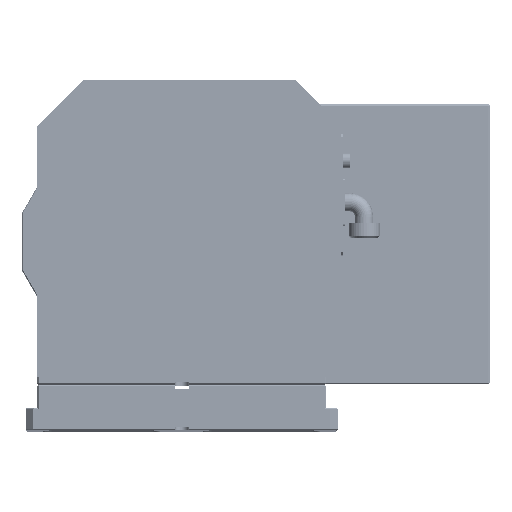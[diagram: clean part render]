
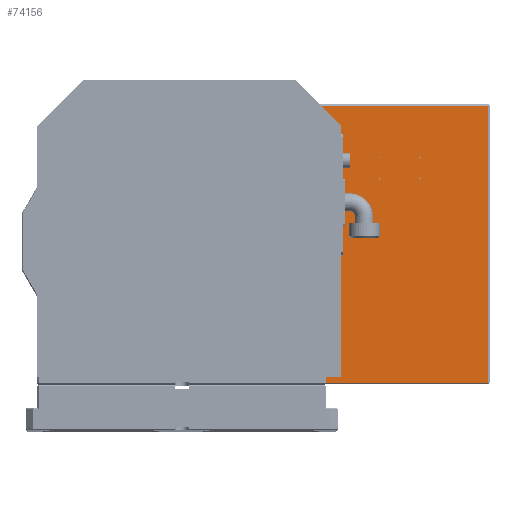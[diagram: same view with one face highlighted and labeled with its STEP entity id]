
A CAD part, top view. The second image highlights one B-rep face of the part: STEP entity #74156.
In plain terms, the highlighted planar face has unit normal (0, 0, 1).
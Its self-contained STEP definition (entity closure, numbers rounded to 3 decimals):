
#1407 = FACE_BOUND ( 'NONE', #3339, .T. ) ;
#2010 = CARTESIAN_POINT ( 'NONE',  ( 405.5, 185., 206. ) ) ;
#2607 = VERTEX_POINT ( 'NONE', #87970 ) ;
#2895 = CARTESIAN_POINT ( 'NONE',  ( 260.5, 87., 206. ) ) ;
#3152 = VERTEX_POINT ( 'NONE', #99328 ) ;
#3267 = VERTEX_POINT ( 'NONE', #33553 ) ;
#3339 = EDGE_LOOP ( 'NONE', ( #84388, #63645 ) ) ;
#4144 = DIRECTION ( 'NONE',  ( 0., 0., 1. ) ) ;
#5925 = EDGE_CURVE ( 'NONE', #110660, #3152, #30447, .T. ) ;
#6602 = VERTEX_POINT ( 'NONE', #64841 ) ;
#8073 = AXIS2_PLACEMENT_3D ( 'NONE', #11706, #98459, #106763 ) ;
#8758 = AXIS2_PLACEMENT_3D ( 'NONE', #2010, #79185, #12806 ) ;
#11665 = DIRECTION ( 'NONE',  ( 0., 0., 1. ) ) ;
#11706 = CARTESIAN_POINT ( 'NONE',  ( 260.5, 87., 206. ) ) ;
#12194 = FACE_BOUND ( 'NONE', #91032, .T. ) ;
#12226 = ORIENTED_EDGE ( 'NONE', *, *, #98747, .F. ) ;
#12275 = CARTESIAN_POINT ( 'NONE',  ( 313.5, 115., 206. ) ) ;
#12806 = DIRECTION ( 'NONE',  ( 0., 1., 0. ) ) ;
#14798 = ORIENTED_EDGE ( 'NONE', *, *, #34016, .T. ) ;
#16618 = DIRECTION ( 'NONE',  ( 1., 0., 0. ) ) ;
#20524 = EDGE_LOOP ( 'NONE', ( #112503, #83151, #105528, #14798 ) ) ;
#20564 = CARTESIAN_POINT ( 'NONE',  ( 313.5, 88., 206. ) ) ;
#21478 = AXIS2_PLACEMENT_3D ( 'NONE', #30502, #89198, #40694 ) ;
#23609 = VECTOR ( 'NONE', #16618, 1000. ) ;
#24624 = VERTEX_POINT ( 'NONE', #95773 ) ;
#26893 = CARTESIAN_POINT ( 'NONE',  ( 313.5, 116., 206. ) ) ;
#30447 = CIRCLE ( 'NONE', #8073, 1. ) ;
#30502 = CARTESIAN_POINT ( 'NONE',  ( 260.5, 115., 206. ) ) ;
#33296 = CIRCLE ( 'NONE', #59803, 1. ) ;
#33553 = CARTESIAN_POINT ( 'NONE',  ( 313.5, 114., 206. ) ) ;
#33854 = LINE ( 'NONE', #72758, #23609 ) ;
#34016 = EDGE_CURVE ( 'NONE', #2607, #6602, #49575, .T. ) ;
#34168 = AXIS2_PLACEMENT_3D ( 'NONE', #110257, #90503, #42016 ) ;
#40269 = FACE_OUTER_BOUND ( 'NONE', #20524, .T. ) ;
#40634 = CARTESIAN_POINT ( 'NONE',  ( 160.5, 185., 206. ) ) ;
#40694 = DIRECTION ( 'NONE',  ( 0., -1., 0. ) ) ;
#41236 = AXIS2_PLACEMENT_3D ( 'NONE', #61662, #100592, #98096 ) ;
#42016 = DIRECTION ( 'NONE',  ( 0., -1., 0. ) ) ;
#44037 = EDGE_CURVE ( 'NONE', #3152, #110660, #110449, .T. ) ;
#44571 = VERTEX_POINT ( 'NONE', #79818 ) ;
#45999 = DIRECTION ( 'NONE',  ( 0., 0., 1. ) ) ;
#46034 = VECTOR ( 'NONE', #88500, 1000. ) ;
#46402 = LINE ( 'NONE', #74476, #100297 ) ;
#47228 = EDGE_CURVE ( 'NONE', #44571, #24624, #33854, .T. ) ;
#47690 = EDGE_CURVE ( 'NONE', #6602, #44571, #90998, .T. ) ;
#49285 = EDGE_CURVE ( 'NONE', #65817, #84711, #81179, .T. ) ;
#49575 = LINE ( 'NONE', #59128, #46034 ) ;
#49831 = PLANE ( 'NONE',  #8758 ) ;
#53405 = DIRECTION ( 'NONE',  ( 0., 0., 1. ) ) ;
#53565 = ORIENTED_EDGE ( 'NONE', *, *, #97912, .F. ) ;
#55702 = EDGE_LOOP ( 'NONE', ( #84233, #12226 ) ) ;
#56032 = CARTESIAN_POINT ( 'NONE',  ( 313.5, 86., 206. ) ) ;
#59128 = CARTESIAN_POINT ( 'NONE',  ( 405.5, 183., 206. ) ) ;
#59803 = AXIS2_PLACEMENT_3D ( 'NONE', #112074, #53405, #71925 ) ;
#61531 = EDGE_CURVE ( 'NONE', #84711, #65817, #76442, .T. ) ;
#61662 = CARTESIAN_POINT ( 'NONE',  ( 313.5, 87., 206. ) ) ;
#61888 = FACE_BOUND ( 'NONE', #120120, .T. ) ;
#62390 = VECTOR ( 'NONE', #90376, 1000. ) ;
#62853 = AXIS2_PLACEMENT_3D ( 'NONE', #84306, #45999, #74726 ) ;
#63533 = AXIS2_PLACEMENT_3D ( 'NONE', #2895, #4144, #109420 ) ;
#63645 = ORIENTED_EDGE ( 'NONE', *, *, #44037, .F. ) ;
#64841 = CARTESIAN_POINT ( 'NONE',  ( 160.5, 183., 206. ) ) ;
#65101 = VERTEX_POINT ( 'NONE', #20564 ) ;
#65700 = CIRCLE ( 'NONE', #41236, 1. ) ;
#65817 = VERTEX_POINT ( 'NONE', #69357 ) ;
#68036 = AXIS2_PLACEMENT_3D ( 'NONE', #12275, #11665, #99030 ) ;
#69357 = CARTESIAN_POINT ( 'NONE',  ( 260.5, 116., 206. ) ) ;
#70881 = CARTESIAN_POINT ( 'NONE',  ( 260.5, 86., 206. ) ) ;
#71925 = DIRECTION ( 'NONE',  ( 0., -1., 0. ) ) ;
#72758 = CARTESIAN_POINT ( 'NONE',  ( 405.5, -181., 206. ) ) ;
#74156 = ADVANCED_FACE ( 'NONE', ( #61888, #1407, #12194, #81059, #40269 ), #49831, .F. ) ;
#74476 = CARTESIAN_POINT ( 'NONE',  ( 403.5, 185., 206. ) ) ;
#74726 = DIRECTION ( 'NONE',  ( 0., -1., 0. ) ) ;
#75243 = VERTEX_POINT ( 'NONE', #26893 ) ;
#76442 = CIRCLE ( 'NONE', #21478, 1. ) ;
#78717 = ORIENTED_EDGE ( 'NONE', *, *, #49285, .F. ) ;
#79185 = DIRECTION ( 'NONE',  ( 0., 0., -1. ) ) ;
#79383 = ORIENTED_EDGE ( 'NONE', *, *, #79668, .F. ) ;
#79668 = EDGE_CURVE ( 'NONE', #65101, #118755, #91254, .T. ) ;
#79818 = CARTESIAN_POINT ( 'NONE',  ( 160.5, -181., 206. ) ) ;
#80149 = CARTESIAN_POINT ( 'NONE',  ( 260.5, 114., 206. ) ) ;
#81059 = FACE_BOUND ( 'NONE', #55702, .T. ) ;
#81179 = CIRCLE ( 'NONE', #62853, 1. ) ;
#83151 = ORIENTED_EDGE ( 'NONE', *, *, #47228, .T. ) ;
#83434 = DIRECTION ( 'NONE',  ( 0., 1., 0. ) ) ;
#84233 = ORIENTED_EDGE ( 'NONE', *, *, #116655, .F. ) ;
#84306 = CARTESIAN_POINT ( 'NONE',  ( 260.5, 115., 206. ) ) ;
#84388 = ORIENTED_EDGE ( 'NONE', *, *, #5925, .F. ) ;
#84711 = VERTEX_POINT ( 'NONE', #80149 ) ;
#85311 = ORIENTED_EDGE ( 'NONE', *, *, #61531, .F. ) ;
#87970 = CARTESIAN_POINT ( 'NONE',  ( 403.5, 183., 206. ) ) ;
#88500 = DIRECTION ( 'NONE',  ( -1., 0., 0. ) ) ;
#89198 = DIRECTION ( 'NONE',  ( 0., 0., 1. ) ) ;
#90376 = DIRECTION ( 'NONE',  ( 0., -1., 0. ) ) ;
#90503 = DIRECTION ( 'NONE',  ( 0., 0., 1. ) ) ;
#90998 = LINE ( 'NONE', #40634, #62390 ) ;
#91032 = EDGE_LOOP ( 'NONE', ( #85311, #78717 ) ) ;
#91254 = CIRCLE ( 'NONE', #34168, 1. ) ;
#95773 = CARTESIAN_POINT ( 'NONE',  ( 403.5, -181., 206. ) ) ;
#97912 = EDGE_CURVE ( 'NONE', #118755, #65101, #65700, .T. ) ;
#98096 = DIRECTION ( 'NONE',  ( 0., -1., 0. ) ) ;
#98459 = DIRECTION ( 'NONE',  ( 0., 0., 1. ) ) ;
#98747 = EDGE_CURVE ( 'NONE', #75243, #3267, #33296, .T. ) ;
#99030 = DIRECTION ( 'NONE',  ( 0., -1., 0. ) ) ;
#99328 = CARTESIAN_POINT ( 'NONE',  ( 260.5, 88., 206. ) ) ;
#100297 = VECTOR ( 'NONE', #83434, 1000. ) ;
#100592 = DIRECTION ( 'NONE',  ( 0., 0., 1. ) ) ;
#105528 = ORIENTED_EDGE ( 'NONE', *, *, #115338, .T. ) ;
#106763 = DIRECTION ( 'NONE',  ( 0., -1., 0. ) ) ;
#109420 = DIRECTION ( 'NONE',  ( 0., -1., 0. ) ) ;
#110257 = CARTESIAN_POINT ( 'NONE',  ( 313.5, 87., 206. ) ) ;
#110449 = CIRCLE ( 'NONE', #63533, 1. ) ;
#110660 = VERTEX_POINT ( 'NONE', #70881 ) ;
#112074 = CARTESIAN_POINT ( 'NONE',  ( 313.5, 115., 206. ) ) ;
#112503 = ORIENTED_EDGE ( 'NONE', *, *, #47690, .T. ) ;
#115338 = EDGE_CURVE ( 'NONE', #24624, #2607, #46402, .T. ) ;
#116655 = EDGE_CURVE ( 'NONE', #3267, #75243, #122969, .T. ) ;
#118755 = VERTEX_POINT ( 'NONE', #56032 ) ;
#120120 = EDGE_LOOP ( 'NONE', ( #53565, #79383 ) ) ;
#122969 = CIRCLE ( 'NONE', #68036, 1. ) ;
